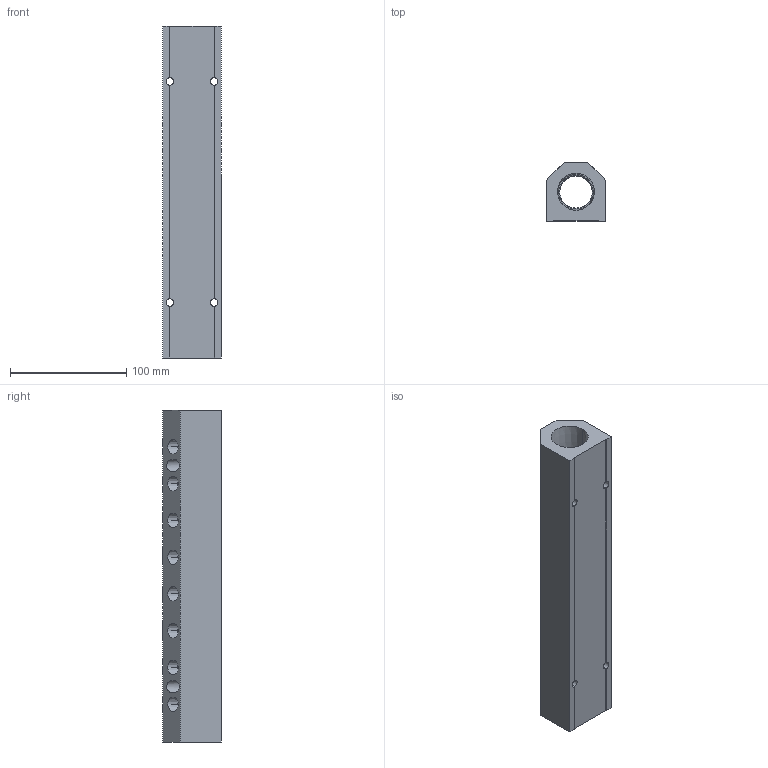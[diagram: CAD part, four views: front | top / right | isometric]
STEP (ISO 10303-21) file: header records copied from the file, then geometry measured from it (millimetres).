
FILE_DESCRIPTION (( 'STEP AP214' ), '1' );
FILE_NAME ('ALM8BCD-N4N16-286B.STEP', '2023-11-02T06:39:22', ( '' ), ( '' ), 'SwSTEP 2.0', 'SolidWorks 2020', '' );
FILE_SCHEMA (( 'AUTOMOTIVE_DESIGN' ));
Length unit declared in the file: millimetre
Products named in the file (1): ALM8BCD-N4N16-286B
Bounding box: 50.8 x 50.8 x 286 mm (x, y, z)
Volume: 439502.5 mm3; surface area: 90657.3 mm2
Topology: 1 solids, 1 shells, 372 faces, 977 edges, 646 vertices
Faces by surface type: plane 202, bspline 92, cone 56, cylinder 22
Entity records: 22221 total; most frequent: CARTESIAN_POINT 10160, ORIENTED_EDGE 1954, DIRECTION 1383, EDGE_CURVE 977, VERTEX_POINT 646, LINE 637, VECTOR 637, EDGE_LOOP 469
